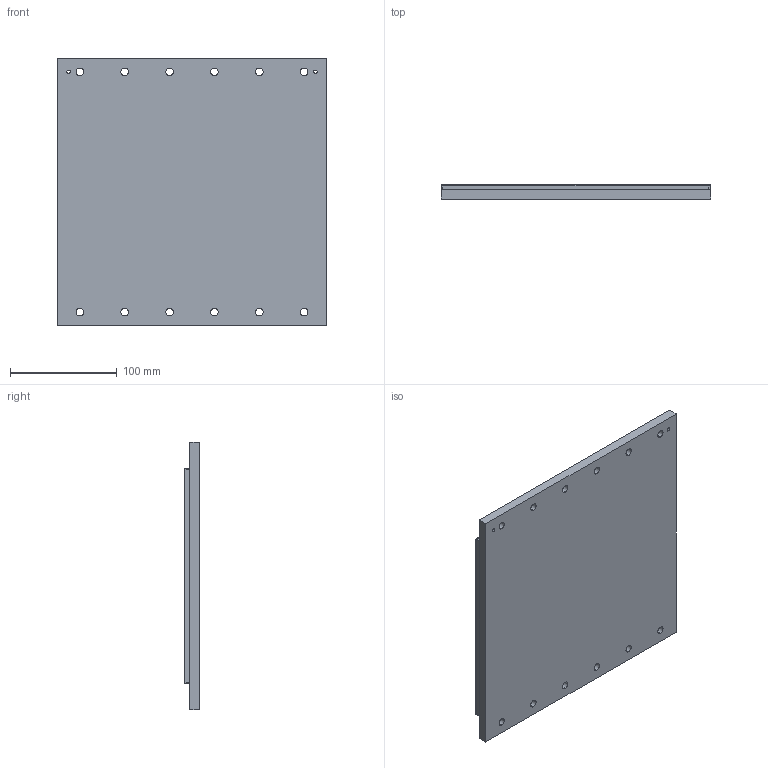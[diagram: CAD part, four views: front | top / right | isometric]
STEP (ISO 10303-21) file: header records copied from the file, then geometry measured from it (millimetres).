
FILE_DESCRIPTION (( 'STEP AP214' ), '1' );
FILE_NAME ('PIXM350-250-TL252-C.step', '2021-11-01T10:03:18', ( '' ), ( '' ), 'SwSTEP 2.0', 'SolidWorks 2020', '' );
FILE_SCHEMA (( 'AUTOMOTIVE_DESIGN' ));
Length unit declared in the file: millimetre
Products named in the file (1): PIXM350-250-TL252-C
Bounding box: 252 x 13.8 x 250 mm (x, y, z)
Volume: 800480.3 mm3; surface area: 345859.2 mm2
Topology: 3 solids, 3 shells, 109 faces, 254 edges, 164 vertices
Faces by surface type: cylinder 56, plane 53
Entity records: 4439 total; most frequent: DIRECTION 586, CARTESIAN_POINT 528, ORIENTED_EDGE 508, EDGE_CURVE 254, AXIS2_PLACEMENT_3D 222, VERTEX_POINT 164, EDGE_LOOP 150, LINE 142
